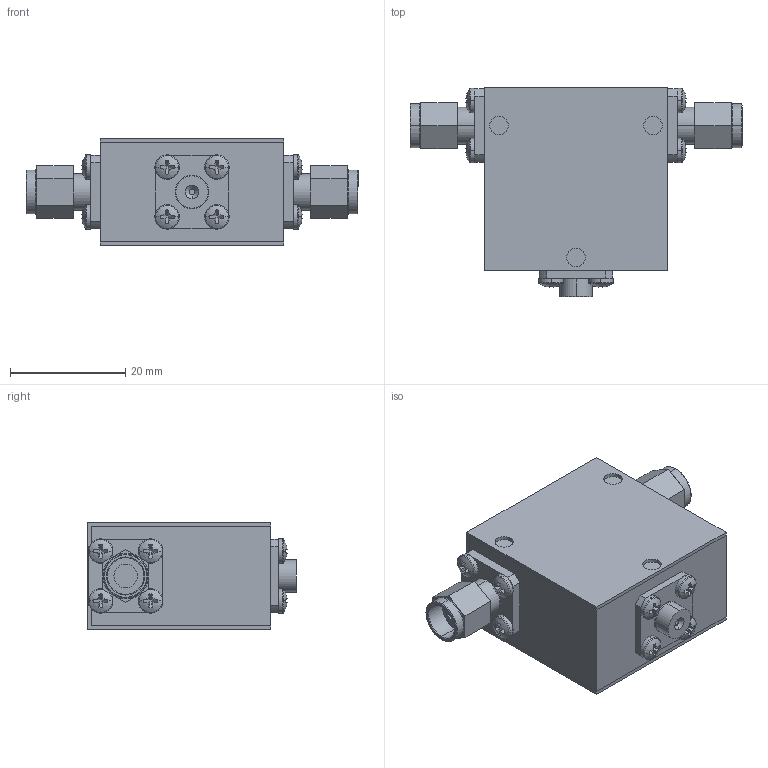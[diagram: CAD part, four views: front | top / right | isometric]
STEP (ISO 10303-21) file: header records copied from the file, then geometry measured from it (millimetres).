
FILE_DESCRIPTION (( 'STEP AP214' ), '1' );
FILE_NAME ('Package 8 Iso MM.step', '2021-12-01T21:02:28', ( '' ), ( '' ), 'SwSTEP 2.0', 'SolidWorks 2016', '' );
FILE_SCHEMA (( 'AUTOMOTIVE_DESIGN' ));
Length unit declared in the file: inch
Products named in the file (6): 030013-1A; pan cross head_ai_CR-PHMS 0.086-56x0.125x0.125-N; Package 8 Iso MM; Delta SMA-Male; Package 8; Package Size 8
Assembly tree (17 placements, depth 2):
  Package 8 Iso MM
    Package Size 8
    Package 8
    pan cross head_ai_CR-PHMS 0.086-56x0.125x0.125-N  x12
    Delta SMA-Male  x2
    030013-1A
Bounding box: 57.51 x 36.2 x 18.54 mm (x, y, z)
Volume: 20262.9 mm3; surface area: 12423.6 mm2
Topology: 17 solids, 17 shells, 430 faces, 980 edges, 604 vertices
Faces by surface type: plane 246, cylinder 118, torus 38, sphere 24, cone 4
Entity records: 4284 total; most frequent: DIRECTION 774, CARTESIAN_POINT 668, ORIENTED_EDGE 632, EDGE_CURVE 316, AXIS2_PLACEMENT_3D 308, VERTEX_POINT 202, EDGE_LOOP 168, LINE 158
